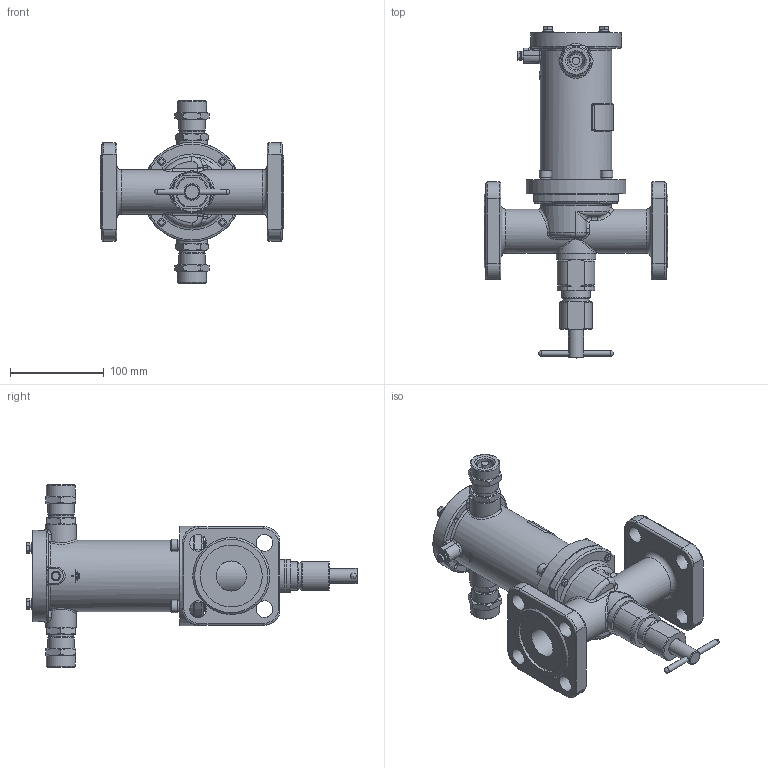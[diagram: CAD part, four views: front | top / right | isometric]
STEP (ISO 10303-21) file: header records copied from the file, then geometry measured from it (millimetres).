
FILE_DESCRIPTION(('STEP AP203'), '1');
FILE_NAME('ÑÅÍÑ DN32PN25.stp', '2018-09-19T08:34:45', ('Îðëîâ Å.Â.'), ('ÎÎÎ ÍÏÏ Ñåíñîð'), 'ASCON STEP Converter 1.3', 'Kompas 3D', '');
FILE_SCHEMA(('CONFIG_CONTROL_DESIGN','SUPPORT_RESOURCE_SCHEMA'));
Length unit declared in the file: millimetre
Products named in the file (1): 10
Bounding box: 196 x 353.7 x 194 mm (x, y, z)
Volume: 1095292.3 mm3; surface area: 283566.9 mm2
Topology: 3 solids, 18 shells, 1954 faces, 5188 edges, 3362 vertices
Faces by surface type: cylinder 998, plane 713, cone 123, torus 52, bspline 50, extrusion 16, sphere 2
Full cylindrical faces by diameter (mm): 3.5 x2, 4.134 x1, 4.917 x4, 5 x1, 6 x13, 6.2 x1, 6.5 x4, 8 x12, 9 x4, 10 x1, 12 x4, 13 x6, 16 x3, 17 x2, 18 x9, 18.632 x2, 19.9 x1, 20 x2, 21 x1, 22 x2, 22.376 x2, 23 x1, 23.5 x2, 24 x2, 24.5 x2, 26 x4, 26.376 x2, 27.8 x1, 28 x3, 28.5 x2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
Entity records: 75380 total; most frequent: CARTESIAN_POINT 25884, DIRECTION 10703, ORIENTED_EDGE 10302, EDGE_CURVE 5151, AXIS2_PLACEMENT_3D 4108, VERTEX_POINT 3354, VECTOR 2487, LINE 2471
